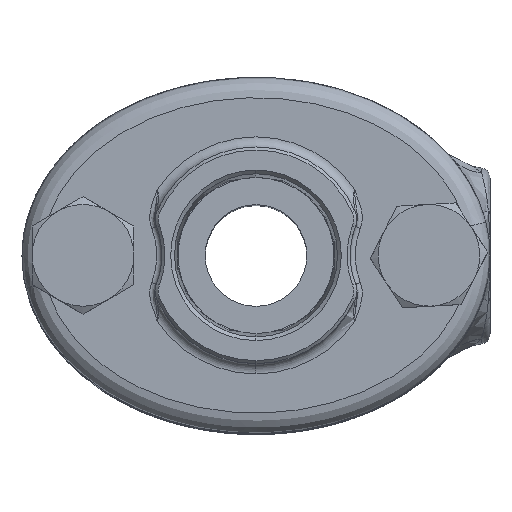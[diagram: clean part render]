
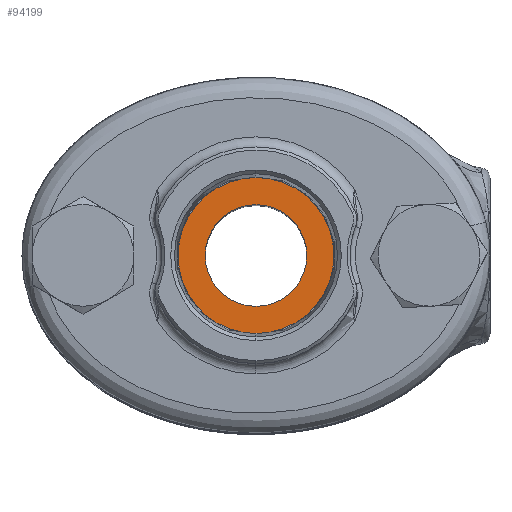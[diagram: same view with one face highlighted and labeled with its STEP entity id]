
A CAD part, top view. The second image highlights one B-rep face of the part: STEP entity #94199.
In plain terms, the highlighted planar face has unit normal (0, 0, 1).
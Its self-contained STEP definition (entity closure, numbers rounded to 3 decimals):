
#3329 = DIRECTION ( 'NONE',  ( 0., 0., 1. ) ) ;
#3727 = AXIS2_PLACEMENT_3D ( 'NONE', #63219, #9379, #72239 ) ;
#4662 = DIRECTION ( 'NONE',  ( 1., 0., 0. ) ) ;
#8771 = CIRCLE ( 'NONE', #114088, 7.664 ) ;
#9379 = DIRECTION ( 'NONE',  ( 0., 0., 1. ) ) ;
#10911 = CARTESIAN_POINT ( 'NONE',  ( -7.664, 0., 28. ) ) ;
#11071 = FACE_OUTER_BOUND ( 'NONE', #24613, .T. ) ;
#11283 = EDGE_LOOP ( 'NONE', ( #31524, #73724 ) ) ;
#11323 = CARTESIAN_POINT ( 'NONE',  ( 5., 0., 28. ) ) ;
#16847 = VERTEX_POINT ( 'NONE', #42445 ) ;
#20571 = CARTESIAN_POINT ( 'NONE',  ( 0., 0., 28. ) ) ;
#21064 = VERTEX_POINT ( 'NONE', #11323 ) ;
#22445 = AXIS2_PLACEMENT_3D ( 'NONE', #20571, #83426, #29585 ) ;
#24613 = EDGE_LOOP ( 'NONE', ( #87109, #65022 ) ) ;
#29585 = DIRECTION ( 'NONE',  ( 1., 0., 0. ) ) ;
#31524 = ORIENTED_EDGE ( 'NONE', *, *, #53588, .F. ) ;
#40678 = CIRCLE ( 'NONE', #3727, 5. ) ;
#42445 = CARTESIAN_POINT ( 'NONE',  ( 7.664, 0., 28. ) ) ;
#43798 = CARTESIAN_POINT ( 'NONE',  ( -5., 0., 28. ) ) ;
#45300 = VERTEX_POINT ( 'NONE', #43798 ) ;
#47680 = EDGE_CURVE ( 'NONE', #16847, #87100, #8771, .T. ) ;
#48338 = DIRECTION ( 'NONE',  ( 0., 0., 1. ) ) ;
#53588 = EDGE_CURVE ( 'NONE', #21064, #45300, #40678, .T. ) ;
#56063 = FACE_BOUND ( 'NONE', #11283, .T. ) ;
#57210 = CARTESIAN_POINT ( 'NONE',  ( 0., 0., 28. ) ) ;
#58521 = DIRECTION ( 'NONE',  ( 0., 0., 1. ) ) ;
#60959 = AXIS2_PLACEMENT_3D ( 'NONE', #102151, #48338, #111157 ) ;
#63219 = CARTESIAN_POINT ( 'NONE',  ( 0., 0., 28. ) ) ;
#65022 = ORIENTED_EDGE ( 'NONE', *, *, #101329, .T. ) ;
#66223 = DIRECTION ( 'NONE',  ( 1., 0., 0. ) ) ;
#67155 = PLANE ( 'NONE',  #113267 ) ;
#72239 = DIRECTION ( 'NONE',  ( 1., 0., 0. ) ) ;
#73217 = CIRCLE ( 'NONE', #60959, 7.664 ) ;
#73724 = ORIENTED_EDGE ( 'NONE', *, *, #111102, .F. ) ;
#83426 = DIRECTION ( 'NONE',  ( 0., 0., 1. ) ) ;
#87100 = VERTEX_POINT ( 'NONE', #10911 ) ;
#87109 = ORIENTED_EDGE ( 'NONE', *, *, #47680, .T. ) ;
#94199 = ADVANCED_FACE ( 'NONE', ( #11071, #56063 ), #67155, .T. ) ;
#101329 = EDGE_CURVE ( 'NONE', #87100, #16847, #73217, .T. ) ;
#102151 = CARTESIAN_POINT ( 'NONE',  ( 0., 0., 28. ) ) ;
#111102 = EDGE_CURVE ( 'NONE', #45300, #21064, #113362, .T. ) ;
#111157 = DIRECTION ( 'NONE',  ( 1., 0., 0. ) ) ;
#112315 = CARTESIAN_POINT ( 'NONE',  ( -5., 0., 28. ) ) ;
#113267 = AXIS2_PLACEMENT_3D ( 'NONE', #112315, #58521, #4662 ) ;
#113362 = CIRCLE ( 'NONE', #22445, 5. ) ;
#114088 = AXIS2_PLACEMENT_3D ( 'NONE', #57210, #3329, #66223 ) ;
